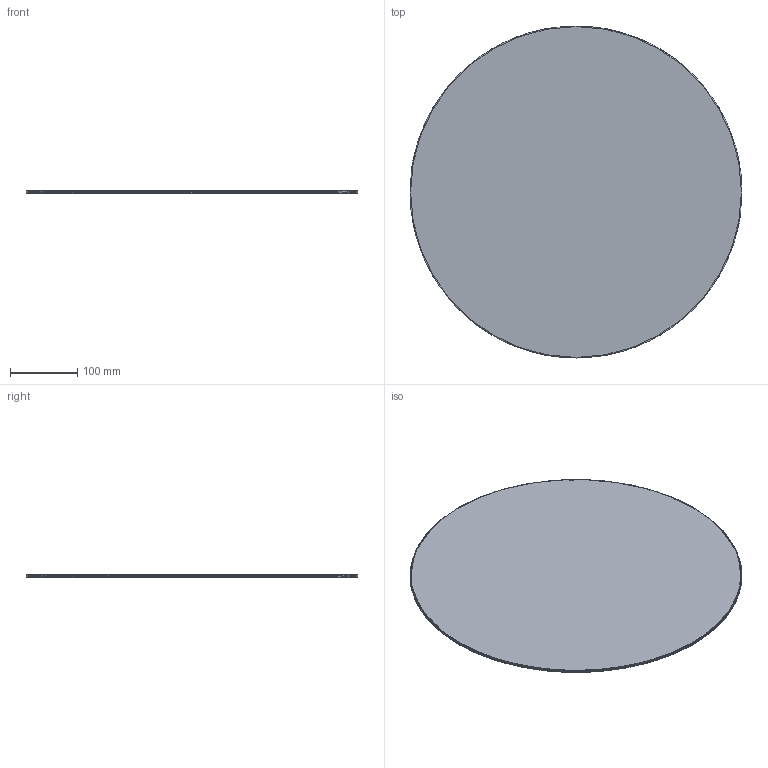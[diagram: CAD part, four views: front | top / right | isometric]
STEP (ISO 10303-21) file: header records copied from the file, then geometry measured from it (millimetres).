
FILE_DESCRIPTION((''),'2;1');
FILE_NAME('BEOSOUND_EDGE_SW','2018-05-23T',('VHK'),('Bang_&_Olufsen_A/S'),'CREO PARAMETRIC BY PTC INC, 2016260','CREO PARAMETRIC BY PTC INC, 2016260','');
FILE_SCHEMA(('CONFIG_CONTROL_DESIGN'));
Length unit declared in the file: millimetre
Products named in the file (1): BEOSOUND_EDGE_SW
Bounding box: 494.8 x 494.8 x 3.8 mm (x, y, z)
Surface area: 445767.3 mm2 (no closed solid volume)
Topology: 0 solids, 0 shells, 16 faces, 68 edges, 64 vertices
Faces by surface type: bspline 10, torus 6
Entity records: 4186 total; most frequent: CARTESIAN_POINT 3268, COLOUR_RGB 115, DIRECTION 114, TRIMMED_CURVE 78, DEFINITIONAL_REPRESENTATION 60, PCURVE 60, COMPOSITE_CURVE_SEGMENT 60, VECTOR 54
